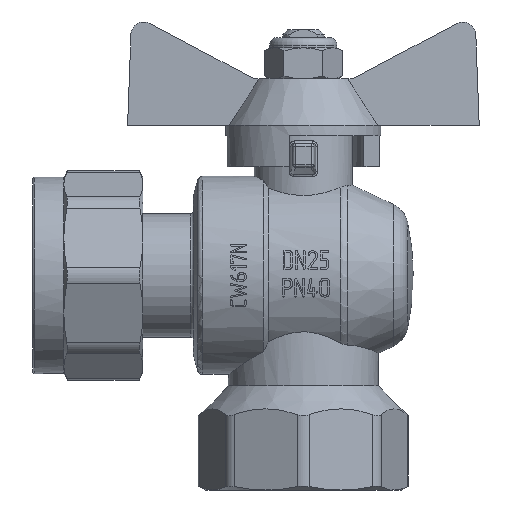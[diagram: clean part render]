
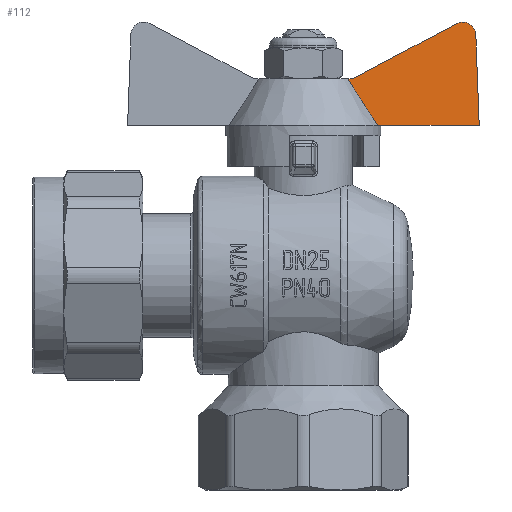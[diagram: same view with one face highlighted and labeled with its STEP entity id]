
A CAD part, left-side view. The second image highlights one B-rep face of the part: STEP entity #112.
In plain terms, the highlighted planar face has unit normal (-0.999, -0.038, 0.037).
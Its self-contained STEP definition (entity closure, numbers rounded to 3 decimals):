
#112=ADVANCED_FACE('',(#1130),#1132,.T.);
#1130=FACE_BOUND('',#1131,.T.);
#1131=EDGE_LOOP('',(#6963,#6964,#6965,#6966,#6967,#6968,#6969,#6970));
#1132=PLANE('',#1133);
#1133=AXIS2_PLACEMENT_3D('',#1134,#1135,#1136);
#1134=CARTESIAN_POINT('',(-4.8,0.,29.));
#1135=DIRECTION('',(-0.999,-0.038,0.037));
#1136=DIRECTION('',(0.038,-0.999,0.));
#6963=ORIENTED_EDGE('',*,*,#11990,.F.);
#6964=ORIENTED_EDGE('',*,*,#11991,.T.);
#6965=ORIENTED_EDGE('',*,*,#11992,.T.);
#6966=ORIENTED_EDGE('',*,*,#11993,.T.);
#6967=ORIENTED_EDGE('',*,*,#11994,.F.);
#6968=ORIENTED_EDGE('',*,*,#11995,.T.);
#6969=ORIENTED_EDGE('',*,*,#11996,.T.);
#6970=ORIENTED_EDGE('',*,*,#11976,.T.);
#11976=EDGE_CURVE('',#14154,#14152,#14155,.F.);
#11990=EDGE_CURVE('',#14178,#14152,#14180,.T.);
#11991=EDGE_CURVE('',#14178,#14181,#14182,.T.);
#11992=EDGE_CURVE('',#14181,#14183,#14184,.F.);
#11993=EDGE_CURVE('',#14183,#14185,#14186,.T.);
#11994=EDGE_CURVE('',#14187,#14185,#14188,.T.);
#11995=EDGE_CURVE('',#14187,#14189,#14190,.T.);
#11996=EDGE_CURVE('',#14189,#14154,#14191,.F.);
#14152=VERTEX_POINT('',#18553);
#14154=VERTEX_POINT('',#18558);
#14155=LINE('',#18559,#18560);
#14178=VERTEX_POINT('',#18626);
#14180=B_SPLINE_CURVE_WITH_KNOTS('',3,
(#18631,#18632,#18633,#18634,#18635,#18636,#18637,#18638,#18639,#18640,#18641,#18642,
#18643,#18644,#18645,#18646,#18647,#18648),
.UNSPECIFIED.,.F.,.F.,
(4,1,1,1,1,1,1,1,1,1,1,1,1,1,1,4),
(0.,0.07,0.139,0.207,0.275,0.342,
0.408,0.472,0.555,0.637,0.717,
0.775,0.833,0.889,0.945,1.),
.UNSPECIFIED.);
#14181=VERTEX_POINT('',#18649);
#14182=LINE('',#18650,#18651);
#14183=VERTEX_POINT('',#18653);
#14184=LINE('',#18654,#18655);
#14185=VERTEX_POINT('',#18657);
#14186=(BOUNDED_CURVE()B_SPLINE_CURVE(3,
(#18658,#18659,#18660,#18661),
.UNSPECIFIED.,.F.,.F.)B_SPLINE_CURVE_WITH_KNOTS((4,4),
(0.,1.),
.UNSPECIFIED.)CURVE()GEOMETRIC_REPRESENTATION_ITEM()RATIONAL_B_SPLINE_CURVE((1.,
0.827,0.827,1.))REPRESENTATION_ITEM(''));
#14187=VERTEX_POINT('',#18662);
#14188=LINE('',#18663,#18664);
#14189=VERTEX_POINT('',#18666);
#14190=(BOUNDED_CURVE()B_SPLINE_CURVE(3,
(#18667,#18668,#18669,#18670),
.UNSPECIFIED.,.F.,.F.)B_SPLINE_CURVE_WITH_KNOTS((4,4),
(0.,1.),
.UNSPECIFIED.)CURVE()GEOMETRIC_REPRESENTATION_ITEM()RATIONAL_B_SPLINE_CURVE((1.,
0.985,0.985,1.))REPRESENTATION_ITEM(''));
#14191=LINE('',#18671,#18672);
#18553=CARTESIAN_POINT('',(-4.138,-8.551,38.));
#18558=CARTESIAN_POINT('',(-4.102,-9.5,38.));
#18559=CARTESIAN_POINT('',(-4.138,-8.551,38.));
#18560=VECTOR('',#18561,1.);
#18561=DIRECTION('',(0.038,-0.999,0.));
#18626=CARTESIAN_POINT('',(-4.25,-14.385,29.));
#18631=CARTESIAN_POINT('',(-4.25,-14.385,29.));
#18632=CARTESIAN_POINT('',(-4.247,-14.252,29.211));
#18633=CARTESIAN_POINT('',(-4.242,-13.986,29.63));
#18634=CARTESIAN_POINT('',(-4.234,-13.588,30.256));
#18635=CARTESIAN_POINT('',(-4.226,-13.194,30.875));
#18636=CARTESIAN_POINT('',(-4.218,-12.803,31.488));
#18637=CARTESIAN_POINT('',(-4.21,-12.418,32.09));
#18638=CARTESIAN_POINT('',(-4.203,-12.037,32.682));
#18639=CARTESIAN_POINT('',(-4.195,-11.625,33.323));
#18640=CARTESIAN_POINT('',(-4.186,-11.18,34.012));
#18641=CARTESIAN_POINT('',(-4.177,-10.702,34.747));
#18642=CARTESIAN_POINT('',(-4.169,-10.272,35.405));
#18643=CARTESIAN_POINT('',(-4.162,-9.889,35.99));
#18644=CARTESIAN_POINT('',(-4.156,-9.551,36.502));
#18645=CARTESIAN_POINT('',(-4.15,-9.215,37.008));
#18646=CARTESIAN_POINT('',(-4.144,-8.883,37.506));
#18647=CARTESIAN_POINT('',(-4.14,-8.662,37.836));
#18648=CARTESIAN_POINT('',(-4.138,-8.551,38.));
#18649=CARTESIAN_POINT('',(-3.5,-34.,29.));
#18650=CARTESIAN_POINT('',(-4.25,-14.385,29.));
#18651=VECTOR('',#18652,1.);
#18652=DIRECTION('',(0.038,-0.999,0.));
#18653=CARTESIAN_POINT('',(-2.867,-33.34,46.692));
#18654=CARTESIAN_POINT('',(-2.867,-33.34,46.692));
#18655=VECTOR('',#18656,1.);
#18656=DIRECTION('',(-0.036,-0.037,-0.999));
#18657=CARTESIAN_POINT('',(-2.874,-30.897,49.));
#18658=CARTESIAN_POINT('',(-2.867,-33.34,46.692));
#18659=CARTESIAN_POINT('',(-2.82,-33.236,48.043));
#18660=CARTESIAN_POINT('',(-2.823,-32.251,48.973));
#18661=CARTESIAN_POINT('',(-2.874,-30.897,49.));
#18662=CARTESIAN_POINT('',(-2.878,-30.797,49.));
#18663=CARTESIAN_POINT('',(-2.878,-30.797,49.));
#18664=VECTOR('',#18665,1.);
#18665=DIRECTION('',(0.038,-0.999,0.));
#18666=CARTESIAN_POINT('',(-2.926,-29.769,48.756));
#18667=CARTESIAN_POINT('',(-2.878,-30.797,49.));
#18668=CARTESIAN_POINT('',(-2.892,-30.44,48.993));
#18669=CARTESIAN_POINT('',(-2.908,-30.091,48.91));
#18670=CARTESIAN_POINT('',(-2.926,-29.769,48.756));
#18671=CARTESIAN_POINT('',(-4.102,-9.5,38.));
#18672=VECTOR('',#18673,1.);
#18673=DIRECTION('',(0.051,-0.882,0.468));
